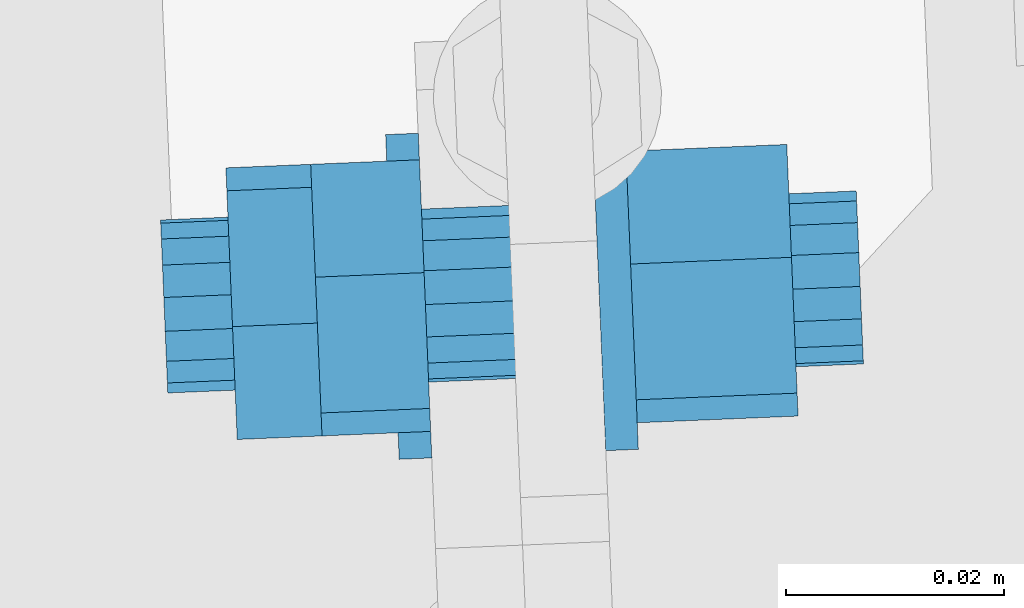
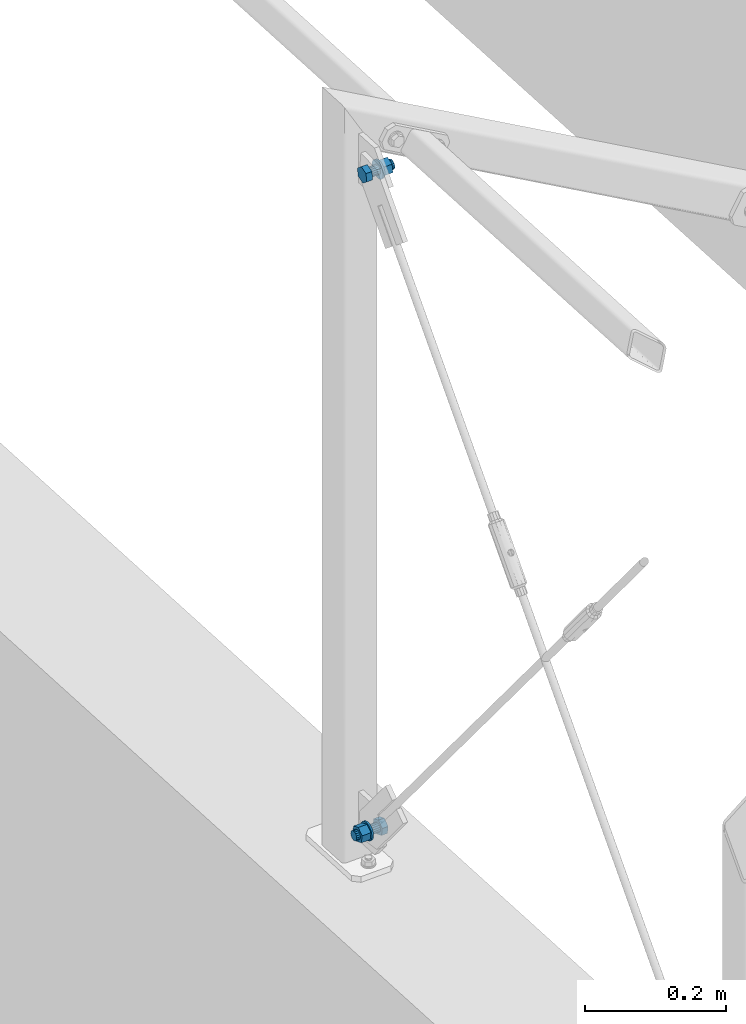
# One storey, part 234 of 288: 2 mechanical fasteners.
"""IFC2X3 building model written with IfcOpenShell, lengths in millimetres."""

from ifc_helpers import new_model, entity, si_unit, converted_unit, origin_with_axes, place, context, project, spatial, faceted_brep, element, save


model = new_model("IFC2X3")

# Units and contexts
model_context = context("Model", 3, precision=1e-09, world=origin_with_axes())
ifc_project = project(units=[si_unit("LENGTHUNIT", "METRE", prefix="MILLI"), si_unit("AREAUNIT", "SQUARE_METRE"), si_unit("VOLUMEUNIT", "CUBIC_METRE"), converted_unit("PLANEANGLEUNIT", "DEGREE", entity("IfcPlaneAngleMeasure", 0.01745329), si_unit("PLANEANGLEUNIT", "RADIAN"), dimensions=[0, 0, 0, 0, 0, 0, 0])], contexts=[model_context])

# Site, building, storey
site_placement = place(None, origin_with_axes())
site = spatial("IfcSite", under=ifc_project, at=site_placement, Name="Remont ?wietlik?w nad MC w NCPP w Opolu", CompositionType="ELEMENT")
building_placement = place(site_placement, origin_with_axes())
building = spatial("IfcBuilding", under=site, at=building_placement, Name="Konstrukcja 1", CompositionType="ELEMENT")
storey_placement = place(building_placement, origin_with_axes())
storey = spatial("IfcBuildingStorey", under=building, at=storey_placement, Name="Default Storey", CompositionType="ELEMENT", Elevation=0.0)

# Mechanical fasteners
mechanical_fastener_1_placement = place(None, origin_with_axes())
element("IfcMechanicalFastener", 1, at=mechanical_fastener_1_placement, inside=storey, ObjectType="Bolt#1", NominalDiameter=16.0, NominalLength=40.0, context=model_context, shape_type="Brep", body=[
    faceted_brep([(-471.990811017, 8028.938665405, 1208.286549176), (-481.982124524, 8028.521946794, 1208.286549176), (-482.502763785, 8041.004878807, 1213.061061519), (-472.511450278, 8041.421597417, 1213.061061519), (-482.590776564, 8043.115087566, 1226.268252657), (-472.599463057, 8043.531806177, 1226.268252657), (-482.158150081, 8032.742364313, 1234.700931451), (-472.166836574, 8033.159082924, 1234.700931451), (-481.63751082, 8020.2594323, 1229.926419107), (-471.646197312, 8020.676150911, 1229.926419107), (-481.549498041, 8018.149223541, 1216.719227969), (-471.558184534, 8018.565942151, 1216.719227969)], [[[0, 1, 2, 3]], [[3, 2, 4, 5]], [[5, 4, 6, 7]], [[7, 6, 8, 9]], [[9, 8, 10, 11]], [[11, 10, 1, 0]], [[4, 2, 1, 10, 8, 6]], [[0, 3, 5, 7, 9, 11]]]),
    faceted_brep([(-472.289010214, 8036.088338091, 1227.703379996), (-456.302908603, 8036.755087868, 1227.703379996), (-456.38593505, 8038.745743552, 1225.300503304), (-472.372036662, 8038.078993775, 1225.300503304), (-456.424322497, 8039.666127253, 1222.318081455), (-472.410424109, 8038.999377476, 1222.318081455), (-456.412226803, 8039.376118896, 1219.21016114), (-472.398328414, 8038.709369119, 1219.21016114), (-456.351489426, 8037.919869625, 1216.449895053), (-472.337591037, 8037.253119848, 1216.449895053), (-456.251357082, 8035.519080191, 1214.457508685), (-472.237458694, 8034.852330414, 1214.457508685), (-456.127074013, 8032.53924902, 1213.536324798), (-472.113175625, 8031.872499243, 1213.536324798), (-455.99756119, 8029.434028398, 1213.826585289), (-471.983662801, 8028.767278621, 1213.826585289), (-455.882535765, 8026.676160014, 1215.28410063), (-471.868637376, 8026.009410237, 1215.28410063), (-455.799509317, 8024.68550433, 1217.686977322), (-471.785610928, 8024.018754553, 1217.686977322), (-455.76112187, 8023.765120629, 1220.669399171), (-471.747223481, 8023.098370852, 1220.669399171), (-455.773217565, 8024.055128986, 1223.777319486), (-471.759319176, 8023.388379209, 1223.777319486), (-455.833954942, 8025.511378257, 1226.537585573), (-471.820056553, 8024.84462848, 1226.537585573), (-455.934087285, 8027.912167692, 1228.529971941), (-471.920188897, 8027.245417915, 1228.529971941), (-456.058370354, 8030.891998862, 1229.451155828), (-472.044471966, 8030.225249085, 1229.451155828), (-456.187883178, 8033.997219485, 1229.160895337), (-472.173984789, 8033.330469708, 1229.160895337)], [[[0, 1, 2, 3]], [[3, 2, 4, 5]], [[5, 4, 6, 7]], [[7, 6, 8, 9]], [[9, 8, 10, 11]], [[11, 10, 12, 13]], [[13, 12, 14, 15]], [[15, 14, 16, 17]], [[17, 16, 18, 19]], [[19, 18, 20, 21]], [[21, 20, 22, 23]], [[23, 22, 24, 25]], [[25, 24, 26, 27]], [[27, 26, 28, 29]], [[29, 28, 30, 31]], [[31, 30, 1, 0]], [[0, 3, 5, 7, 9, 11, 13, 15, 17, 19, 21, 23, 25, 27, 29, 31]], [[1, 30, 28, 26, 24, 22, 20, 18, 16, 14, 12, 10, 8, 6, 4, 2]]]),
    faceted_brep([(-456.486821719, 8041.164618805, 1233.136814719), (-453.489427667, 8041.289634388, 1233.136814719), (-453.576510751, 8043.377552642, 1231.068086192), (-456.573904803, 8043.252537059, 1231.068086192), (-453.645102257, 8045.022113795, 1228.631420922), (-456.642496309, 8044.897098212, 1228.631420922), (-453.692566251, 8046.160118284, 1225.920458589), (-456.689960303, 8046.0351027, 1225.920458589), (-453.71707872, 8046.747833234, 1223.039379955), (-456.714472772, 8046.622817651, 1223.039379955), (-453.717697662, 8046.762673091, 1220.098903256), (-456.715091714, 8046.637657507, 1220.098903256), (-453.694399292, 8046.204067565, 1217.212029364), (-456.691793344, 8046.079051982, 1217.212029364), (-453.648078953, 8045.093483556, 1214.489699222), (-456.645473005, 8044.968467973, 1214.489699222), (-453.58051671, 8043.473600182, 1212.036530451), (-456.577910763, 8043.348584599, 1212.036530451), (-453.494308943, 8041.406668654, 1209.946796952), (-456.491702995, 8041.281653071, 1209.946796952), (-453.392768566, 8038.972119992, 1208.30080601), (-456.390162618, 8038.847104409, 1208.30080601), (-453.27979772, 8036.263512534, 1207.161812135), (-456.277191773, 8036.138496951, 1207.161812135), (-453.159737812, 8033.384936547, 1206.573586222), (-456.157131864, 8033.259920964, 1206.573586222), (-453.037202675, 8030.447014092, 1206.558733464), (-456.034596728, 8030.321998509, 1206.558733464), (-452.916901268, 8027.56264788, 1207.117824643), (-455.91429532, 8027.437632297, 1207.117824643), (-452.803456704, 8024.842682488, 1208.2293742), (-455.800850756, 8024.717666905, 1208.2293742), (-452.701228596, 8022.391644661, 1209.850665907), (-455.698622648, 8022.266629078, 1209.850665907), (-452.614145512, 8020.303726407, 1211.919394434), (-455.611539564, 8020.178710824, 1211.919394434), (-452.545554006, 8018.659165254, 1214.356059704), (-455.542948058, 8018.534149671, 1214.356059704), (-452.498090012, 8017.521160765, 1217.067022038), (-455.495484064, 8017.396145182, 1217.067022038), (-452.473577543, 8016.933445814, 1219.948100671), (-455.470971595, 8016.808430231, 1219.948100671), (-452.472958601, 8016.918605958, 1222.88857737), (-455.470352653, 8016.793590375, 1222.88857737), (-452.496256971, 8017.477211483, 1225.775451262), (-455.493651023, 8017.3521959, 1225.775451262), (-452.54257731, 8018.587795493, 1228.497781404), (-455.539971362, 8018.46277991, 1228.497781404), (-452.610139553, 8020.207678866, 1230.950950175), (-455.607533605, 8020.082663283, 1230.950950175), (-452.69634732, 8022.274610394, 1233.040683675), (-455.693741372, 8022.149594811, 1233.040683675), (-452.797887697, 8024.709159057, 1234.686674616), (-455.795281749, 8024.584143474, 1234.686674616), (-452.910858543, 8027.417766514, 1235.825668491), (-455.908252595, 8027.292750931, 1235.825668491), (-453.030918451, 8030.296342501, 1236.413894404), (-456.028312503, 8030.171326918, 1236.413894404), (-453.153453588, 8033.234264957, 1236.428747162), (-456.15084764, 8033.109249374, 1236.428747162), (-453.273754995, 8036.118631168, 1235.869655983), (-456.271149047, 8035.993615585, 1235.869655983), (-453.387199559, 8038.83859656, 1234.758106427), (-456.384593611, 8038.713580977, 1234.758106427)], [[[0, 1, 2, 3]], [[3, 2, 4, 5]], [[5, 4, 6, 7]], [[7, 6, 8, 9]], [[9, 8, 10, 11]], [[11, 10, 12, 13]], [[13, 12, 14, 15]], [[15, 14, 16, 17]], [[17, 16, 18, 19]], [[19, 18, 20, 21]], [[21, 20, 22, 23]], [[23, 22, 24, 25]], [[25, 24, 26, 27]], [[27, 26, 28, 29]], [[29, 28, 30, 31]], [[31, 30, 32, 33]], [[33, 32, 34, 35]], [[35, 34, 36, 37]], [[37, 36, 38, 39]], [[39, 38, 40, 41]], [[41, 40, 42, 43]], [[43, 42, 44, 45]], [[45, 44, 46, 47]], [[47, 46, 48, 49]], [[49, 48, 50, 51]], [[51, 50, 52, 53]], [[53, 52, 54, 55]], [[55, 54, 56, 57]], [[57, 56, 58, 59]], [[59, 58, 60, 61]], [[61, 60, 62, 63]], [[63, 62, 1, 0]], [[0, 3, 5, 7, 9, 11, 13, 15, 17, 19, 21, 23, 25, 27, 29, 31, 33, 35, 37, 39, 41, 43, 45, 47, 49, 51, 53, 55, 57, 59, 61, 63]], [[1, 62, 60, 58, 56, 54, 52, 50, 48, 46, 44, 42, 40, 38, 36, 34, 32, 30, 28, 26, 24, 22, 20, 18, 16, 14, 12, 10, 8, 6, 4, 2]]]),
    faceted_brep([(-438.220171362, 8030.347174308, 1208.286549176), (-453.007315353, 8029.730430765, 1208.286549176), (-453.527954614, 8042.213362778, 1213.061061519), (-438.740810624, 8042.830106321, 1213.061061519), (-453.615967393, 8044.323571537, 1226.268252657), (-438.828823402, 8044.940315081, 1226.268252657), (-453.18334091, 8033.950848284, 1234.700931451), (-438.396196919, 8034.567591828, 1234.700931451), (-452.662701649, 8021.467916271, 1229.926419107), (-437.875557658, 8022.084659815, 1229.926419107), (-452.57468887, 8019.357707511, 1216.719227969), (-437.787544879, 8019.974451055, 1216.719227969)], [[[0, 1, 2, 3]], [[3, 2, 4, 5]], [[5, 4, 6, 7]], [[7, 6, 8, 9]], [[9, 8, 10, 11]], [[11, 10, 1, 0]], [[4, 2, 1, 10, 8, 6]], [[0, 3, 5, 7, 9, 11]]]),
    faceted_brep([(-438.51837056, 8037.496846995, 1227.703379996), (-432.323756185, 8037.755212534, 1227.703379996), (-432.406782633, 8039.745868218, 1225.300503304), (-438.601397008, 8039.487502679, 1225.300503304), (-432.44517008, 8040.666251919, 1222.318081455), (-438.639784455, 8040.40788638, 1222.318081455), (-432.433074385, 8040.376243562, 1219.21016114), (-438.62768876, 8040.117878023, 1219.21016114), (-432.372337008, 8038.919994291, 1216.449895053), (-438.566951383, 8038.661628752, 1216.449895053), (-432.272204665, 8036.519204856, 1214.457508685), (-438.466819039, 8036.260839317, 1214.457508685), (-432.147921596, 8033.539373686, 1213.536324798), (-438.34253597, 8033.281008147, 1213.536324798), (-432.018408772, 8030.434153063, 1213.826585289), (-438.213023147, 8030.175787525, 1213.826585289), (-431.903383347, 8027.676284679, 1215.28410063), (-438.097997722, 8027.417919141, 1215.28410063), (-431.8203569, 8025.685628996, 1217.686977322), (-438.014971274, 8025.427263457, 1217.686977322), (-431.781969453, 8024.765245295, 1220.669399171), (-437.976583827, 8024.506879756, 1220.669399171), (-431.794065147, 8025.055253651, 1223.777319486), (-437.988679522, 8024.796888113, 1223.777319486), (-431.854802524, 8026.511502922, 1226.537585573), (-438.049416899, 8026.253137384, 1226.537585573), (-431.954934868, 8028.912292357, 1228.529971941), (-438.149549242, 8028.653926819, 1228.529971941), (-432.079217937, 8031.892123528, 1229.451155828), (-438.273832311, 8031.633757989, 1229.451155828), (-432.20873076, 8034.99734415, 1229.160895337), (-438.403345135, 8034.738978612, 1229.160895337)], [[[0, 1, 2, 3]], [[3, 2, 4, 5]], [[5, 4, 6, 7]], [[7, 6, 8, 9]], [[9, 8, 10, 11]], [[11, 10, 12, 13]], [[13, 12, 14, 15]], [[15, 14, 16, 17]], [[17, 16, 18, 19]], [[19, 18, 20, 21]], [[21, 20, 22, 23]], [[23, 22, 24, 25]], [[25, 24, 26, 27]], [[27, 26, 28, 29]], [[29, 28, 30, 31]], [[31, 30, 1, 0]], [[0, 3, 5, 7, 9, 11, 13, 15, 17, 19, 21, 23, 25, 27, 29, 31]], [[1, 30, 28, 26, 24, 22, 20, 18, 16, 14, 12, 10, 8, 6, 4, 2]]]),
])
mechanical_fastener_2_placement = place(None, origin_with_axes())
element("IfcMechanicalFastener", 2, at=mechanical_fastener_2_placement, inside=storey, ObjectType="Bolt#1", NominalDiameter=16.0, NominalLength=40.0, context=model_context, shape_type="Brep", body=[
    faceted_brep([(-456.004709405, 8029.60541518, 96.713451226), (-446.013395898, 8030.02213379, 96.713451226), (-446.534035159, 8042.505065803, 91.938938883), (-456.525348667, 8042.088347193, 91.938938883), (-446.622047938, 8044.615274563, 78.731747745), (-456.613361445, 8044.198555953, 78.731747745), (-446.189421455, 8034.24255131, 70.299068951), (-456.180734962, 8033.8258327, 70.299068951), (-445.668782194, 8021.759619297, 75.073581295), (-455.660095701, 8021.342900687, 75.073581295), (-445.580769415, 8019.649410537, 88.280772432), (-455.572082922, 8019.232691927, 88.280772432)], [[[0, 1, 2, 3]], [[3, 2, 4, 5]], [[5, 4, 6, 7]], [[7, 6, 8, 9]], [[9, 8, 10, 11]], [[11, 10, 1, 0]], [[4, 2, 1, 10, 8, 6]], [[0, 3, 5, 7, 9, 11]]]),
    faceted_brep([(-456.302908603, 8036.755087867, 77.296620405), (-472.289010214, 8036.08833809, 77.296620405), (-472.372036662, 8038.078993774, 79.699497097), (-456.38593505, 8038.745743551, 79.699497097), (-472.410424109, 8038.999377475, 82.681918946), (-456.424322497, 8039.666127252, 82.681918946), (-472.398328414, 8038.709369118, 85.789839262), (-456.412226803, 8039.376118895, 85.789839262), (-472.337591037, 8037.253119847, 88.550105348), (-456.351489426, 8037.919869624, 88.550105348), (-472.237458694, 8034.852330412, 90.542491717), (-456.251357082, 8035.519080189, 90.542491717), (-472.113175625, 8031.872499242, 91.463675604), (-456.127074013, 8032.539249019, 91.463675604), (-471.983662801, 8028.767278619, 91.173415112), (-455.99756119, 8029.434028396, 91.173415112), (-471.868637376, 8026.009410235, 89.715899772), (-455.882535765, 8026.676160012, 89.715899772), (-471.785610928, 8024.018754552, 87.31302308), (-455.799509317, 8024.685504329, 87.31302308), (-471.747223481, 8023.098370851, 84.330601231), (-455.76112187, 8023.765120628, 84.330601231), (-471.759319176, 8023.388379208, 81.222680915), (-455.773217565, 8024.055128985, 81.222680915), (-471.820056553, 8024.844628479, 78.462414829), (-455.833954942, 8025.511378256, 78.462414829), (-471.920188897, 8027.245417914, 76.47002846), (-455.934087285, 8027.912167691, 76.47002846), (-472.044471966, 8030.225249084, 75.548844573), (-456.058370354, 8030.891998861, 75.548844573), (-472.173984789, 8033.330469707, 75.839105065), (-456.187883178, 8033.997219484, 75.839105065)], [[[0, 1, 2, 3]], [[3, 2, 4, 5]], [[5, 4, 6, 7]], [[7, 6, 8, 9]], [[9, 8, 10, 11]], [[11, 10, 12, 13]], [[13, 12, 14, 15]], [[15, 14, 16, 17]], [[17, 16, 18, 19]], [[19, 18, 20, 21]], [[21, 20, 22, 23]], [[23, 22, 24, 25]], [[25, 24, 26, 27]], [[27, 26, 28, 29]], [[29, 28, 30, 31]], [[31, 30, 1, 0]], [[0, 3, 5, 7, 9, 11, 13, 15, 17, 19, 21, 23, 25, 27, 29, 31]], [[1, 30, 28, 26, 24, 22, 20, 18, 16, 14, 12, 10, 8, 6, 4, 2]]]),
    faceted_brep([(-472.472923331, 8040.497869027, 71.863185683), (-475.470317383, 8040.372853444, 71.863185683), (-475.557400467, 8042.460771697, 73.93191421), (-472.560006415, 8042.585787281, 73.93191421), (-475.625991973, 8044.10533285, 76.36857948), (-472.62859792, 8044.230348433, 76.36857948), (-475.673455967, 8045.243337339, 79.079541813), (-472.676061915, 8045.368352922, 79.079541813), (-475.697968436, 8045.83105229, 81.960620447), (-472.700574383, 8045.956067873, 81.960620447), (-475.698587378, 8045.845892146, 84.901097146), (-472.701193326, 8045.970907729, 84.901097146), (-475.675289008, 8045.287286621, 87.787971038), (-472.677894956, 8045.412302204, 87.787971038), (-475.628968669, 8044.176702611, 90.51030118), (-472.631574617, 8044.301718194, 90.51030118), (-475.561406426, 8042.556819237, 92.963469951), (-472.564012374, 8042.68183482, 92.963469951), (-475.475198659, 8040.489887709, 95.05320345), (-472.477804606, 8040.614903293, 95.05320345), (-475.373658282, 8038.055339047, 96.699194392), (-472.37626423, 8038.18035463, 96.699194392), (-475.260687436, 8035.346731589, 97.838188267), (-472.263293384, 8035.471747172, 97.838188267), (-475.140627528, 8032.468155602, 98.42641418), (-472.143233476, 8032.593171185, 98.42641418), (-475.018092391, 8029.530233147, 98.441266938), (-472.020698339, 8029.65524873, 98.441266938), (-474.897790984, 8026.645866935, 97.882175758), (-471.900396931, 8026.770882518, 97.882175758), (-474.78434642, 8023.925901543, 96.770626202), (-471.786952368, 8024.050917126, 96.770626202), (-474.682118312, 8021.474863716, 95.149334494), (-471.68472426, 8021.599879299, 95.149334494), (-474.595035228, 8019.386945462, 93.080605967), (-471.597641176, 8019.511961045, 93.080605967), (-474.526443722, 8017.742384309, 90.643940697), (-471.52904967, 8017.867399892, 90.643940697), (-474.478979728, 8016.60437982, 87.932978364), (-471.481585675, 8016.729395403, 87.932978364), (-474.454467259, 8016.01666487, 85.05189973), (-471.457073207, 8016.141680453, 85.05189973), (-474.453848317, 8016.001825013, 82.111423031), (-471.456454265, 8016.126840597, 82.111423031), (-474.477146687, 8016.560430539, 79.224549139), (-471.479752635, 8016.685446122, 79.224549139), (-474.523467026, 8017.671014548, 76.502218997), (-471.526072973, 8017.796030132, 76.502218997), (-474.591029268, 8019.290897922, 74.049050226), (-471.593635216, 8019.415913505, 74.049050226), (-474.677237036, 8021.35782945, 71.959316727), (-471.679842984, 8021.482845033, 71.959316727), (-474.778777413, 8023.792378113, 70.313325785), (-471.781383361, 8023.917393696, 70.313325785), (-474.891748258, 8026.50098557, 69.17433191), (-471.894354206, 8026.626001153, 69.17433191), (-475.011808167, 8029.379561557, 68.586105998), (-472.014414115, 8029.50457714, 68.586105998), (-475.134343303, 8032.317484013, 68.571253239), (-472.136949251, 8032.442499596, 68.571253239), (-475.254644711, 8035.201850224, 69.130344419), (-472.257250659, 8035.326865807, 69.130344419), (-475.368089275, 8037.921815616, 70.241893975), (-472.370695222, 8038.046831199, 70.241893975)], [[[0, 1, 2, 3]], [[3, 2, 4, 5]], [[5, 4, 6, 7]], [[7, 6, 8, 9]], [[9, 8, 10, 11]], [[11, 10, 12, 13]], [[13, 12, 14, 15]], [[15, 14, 16, 17]], [[17, 16, 18, 19]], [[19, 18, 20, 21]], [[21, 20, 22, 23]], [[23, 22, 24, 25]], [[25, 24, 26, 27]], [[27, 26, 28, 29]], [[29, 28, 30, 31]], [[31, 30, 32, 33]], [[33, 32, 34, 35]], [[35, 34, 36, 37]], [[37, 36, 38, 39]], [[39, 38, 40, 41]], [[41, 40, 42, 43]], [[43, 42, 44, 45]], [[45, 44, 46, 47]], [[47, 46, 48, 49]], [[49, 48, 50, 51]], [[51, 50, 52, 53]], [[53, 52, 54, 55]], [[55, 54, 56, 57]], [[57, 56, 58, 59]], [[59, 58, 60, 61]], [[61, 60, 62, 63]], [[63, 62, 1, 0]], [[0, 3, 5, 7, 9, 11, 13, 15, 17, 19, 21, 23, 25, 27, 29, 31, 33, 35, 37, 39, 41, 43, 45, 47, 49, 51, 53, 55, 57, 59, 61, 63]], [[1, 62, 60, 58, 56, 54, 52, 50, 48, 46, 44, 42, 40, 38, 36, 34, 32, 30, 28, 26, 24, 22, 20, 18, 16, 14, 12, 10, 8, 6, 4, 2]]]),
    faceted_brep([(-489.77534906, 8028.196906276, 96.713451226), (-474.988205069, 8028.81364982, 96.713451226), (-475.50884433, 8041.296581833, 91.938938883), (-490.295988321, 8040.679838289, 91.938938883), (-475.596857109, 8043.406790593, 78.731747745), (-490.384001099, 8042.790047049, 78.731747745), (-475.164230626, 8033.03406734, 70.299068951), (-489.951374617, 8032.417323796, 70.299068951), (-474.643591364, 8020.551135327, 75.073581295), (-489.430735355, 8019.934391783, 75.073581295), (-474.555578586, 8018.440926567, 88.280772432), (-489.342722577, 8017.824183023, 88.280772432)], [[[0, 1, 2, 3]], [[3, 2, 4, 5]], [[5, 4, 6, 7]], [[7, 6, 8, 9]], [[9, 8, 10, 11]], [[11, 10, 1, 0]], [[4, 2, 1, 10, 8, 6]], [[0, 3, 5, 7, 9, 11]]]),
    faceted_brep([(-490.073548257, 8035.346578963, 77.296620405), (-496.268162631, 8035.088213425, 77.296620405), (-496.351189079, 8037.078869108, 79.699497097), (-490.156574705, 8037.337234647, 79.699497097), (-496.389576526, 8037.999252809, 82.681918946), (-490.194962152, 8038.257618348, 82.681918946), (-496.377480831, 8037.709244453, 85.789839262), (-490.182866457, 8037.967609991, 85.789839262), (-496.316743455, 8036.252995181, 88.550105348), (-490.12212908, 8036.51136072, 88.550105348), (-496.216611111, 8033.852205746, 90.542491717), (-490.021996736, 8034.110571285, 90.542491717), (-496.092328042, 8030.872374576, 91.463675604), (-489.897713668, 8031.130740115, 91.463675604), (-495.962815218, 8027.767153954, 91.173415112), (-489.768200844, 8028.025519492, 91.173415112), (-495.847789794, 8025.00928557, 89.715899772), (-489.653175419, 8025.267651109, 89.715899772), (-495.764763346, 8023.018629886, 87.31302308), (-489.570148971, 8023.276995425, 87.31302308), (-495.726375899, 8022.098246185, 84.330601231), (-489.531761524, 8022.356611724, 84.330601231), (-495.738471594, 8022.388254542, 81.222680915), (-489.543857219, 8022.646620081, 81.222680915), (-495.79920897, 8023.844503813, 78.462414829), (-489.604594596, 8024.102869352, 78.462414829), (-495.899341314, 8026.245293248, 76.47002846), (-489.70472694, 8026.503658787, 76.47002846), (-496.023624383, 8029.225124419, 75.548844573), (-489.829010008, 8029.483489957, 75.548844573), (-496.153137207, 8032.330345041, 75.839105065), (-489.958522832, 8032.58871058, 75.839105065)], [[[0, 1, 2, 3]], [[3, 2, 4, 5]], [[5, 4, 6, 7]], [[7, 6, 8, 9]], [[9, 8, 10, 11]], [[11, 10, 12, 13]], [[13, 12, 14, 15]], [[15, 14, 16, 17]], [[17, 16, 18, 19]], [[19, 18, 20, 21]], [[21, 20, 22, 23]], [[23, 22, 24, 25]], [[25, 24, 26, 27]], [[27, 26, 28, 29]], [[29, 28, 30, 31]], [[31, 30, 1, 0]], [[0, 3, 5, 7, 9, 11, 13, 15, 17, 19, 21, 23, 25, 27, 29, 31]], [[1, 30, 28, 26, 24, 22, 20, 18, 16, 14, 12, 10, 8, 6, 4, 2]]]),
])

save(model, "model.ifc")
